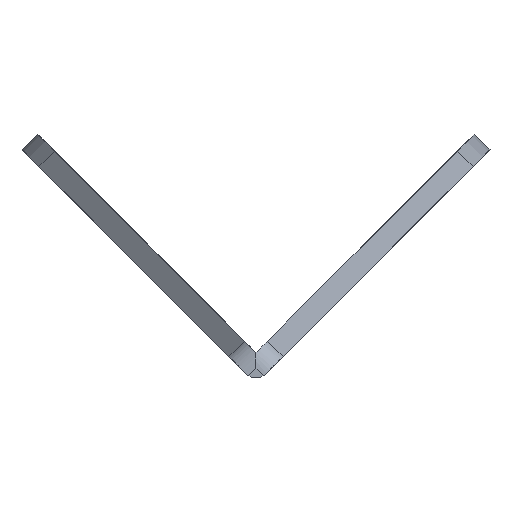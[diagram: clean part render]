
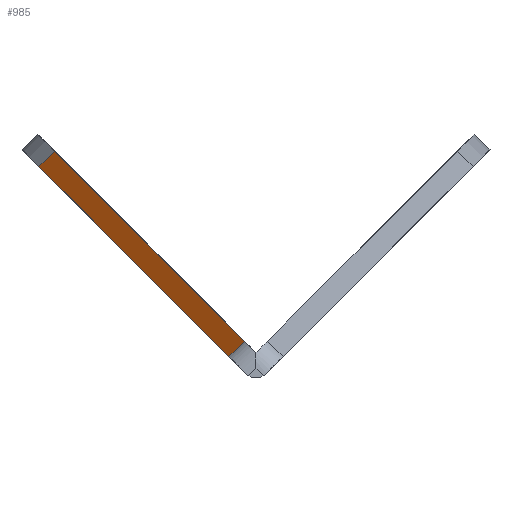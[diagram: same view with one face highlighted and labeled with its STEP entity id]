
A CAD part, front view. The second image highlights one B-rep face of the part: STEP entity #985.
In plain terms, the highlighted planar face has unit normal (-0.661, -0.354, 0.661).
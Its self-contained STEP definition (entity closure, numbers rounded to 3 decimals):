
#117 = DIRECTION ( 'NONE',  ( -0.707, 0., -0.707 ) ) ;
#140 = EDGE_LOOP ( 'NONE', ( #712, #1535, #1481, #595 ) ) ;
#159 = VECTOR ( 'NONE', #862, 1000. ) ;
#160 = VERTEX_POINT ( 'NONE', #763 ) ;
#183 = VERTEX_POINT ( 'NONE', #1552 ) ;
#349 = FACE_OUTER_BOUND ( 'NONE', #140, .T. ) ;
#445 = DIRECTION ( 'NONE',  ( 0.707, 0., 0.707 ) ) ;
#455 = LINE ( 'NONE', #1501, #159 ) ;
#528 = VERTEX_POINT ( 'NONE', #648 ) ;
#595 = ORIENTED_EDGE ( 'NONE', *, *, #1514, .T. ) ;
#648 = CARTESIAN_POINT ( 'NONE',  ( -27.404, -251.005, 27.404 ) ) ;
#675 = CARTESIAN_POINT ( 'NONE',  ( -29.526, -251.005, 25.283 ) ) ;
#695 = LINE ( 'NONE', #675, #762 ) ;
#703 = CARTESIAN_POINT ( 'NONE',  ( 29.188, -347.417, 32.33 ) ) ;
#712 = ORIENTED_EDGE ( 'NONE', *, *, #808, .T. ) ;
#762 = VECTOR ( 'NONE', #1209, 1000. ) ;
#763 = CARTESIAN_POINT ( 'NONE',  ( -3.692, -347.417, -0.551 ) ) ;
#808 = EDGE_CURVE ( 'NONE', #183, #528, #455, .T. ) ;
#838 = LINE ( 'NONE', #703, #1129 ) ;
#862 = DIRECTION ( 'NONE',  ( -0.251, 0.935, 0.251 ) ) ;
#953 = LINE ( 'NONE', #1239, #1651 ) ;
#985 = ADVANCED_FACE ( 'NONE', ( #349 ), #1287, .F. ) ;
#1129 = VECTOR ( 'NONE', #445, 1000. ) ;
#1182 = CARTESIAN_POINT ( 'NONE',  ( 1.061, -242.443, 60.458 ) ) ;
#1209 = DIRECTION ( 'NONE',  ( -0.707, 0., -0.707 ) ) ;
#1222 = VERTEX_POINT ( 'NONE', #1416 ) ;
#1239 = CARTESIAN_POINT ( 'NONE',  ( -6.619, -336.495, 2.376 ) ) ;
#1287 = PLANE ( 'NONE',  #1620 ) ;
#1371 = DIRECTION ( 'NONE',  ( -0.251, 0.935, 0.251 ) ) ;
#1416 = CARTESIAN_POINT ( 'NONE',  ( -29.526, -251.005, 25.283 ) ) ;
#1426 = DIRECTION ( 'NONE',  ( 0.661, 0.354, -0.661 ) ) ;
#1439 = EDGE_CURVE ( 'NONE', #528, #1222, #695, .T. ) ;
#1466 = EDGE_CURVE ( 'NONE', #160, #1222, #953, .T. ) ;
#1481 = ORIENTED_EDGE ( 'NONE', *, *, #1466, .F. ) ;
#1501 = CARTESIAN_POINT ( 'NONE',  ( -0.768, -350.412, 0.768 ) ) ;
#1514 = EDGE_CURVE ( 'NONE', #160, #183, #838, .T. ) ;
#1535 = ORIENTED_EDGE ( 'NONE', *, *, #1439, .T. ) ;
#1552 = CARTESIAN_POINT ( 'NONE',  ( -1.571, -347.417, 1.571 ) ) ;
#1620 = AXIS2_PLACEMENT_3D ( 'NONE', #1182, #1426, #117 ) ;
#1651 = VECTOR ( 'NONE', #1371, 1000. ) ;
